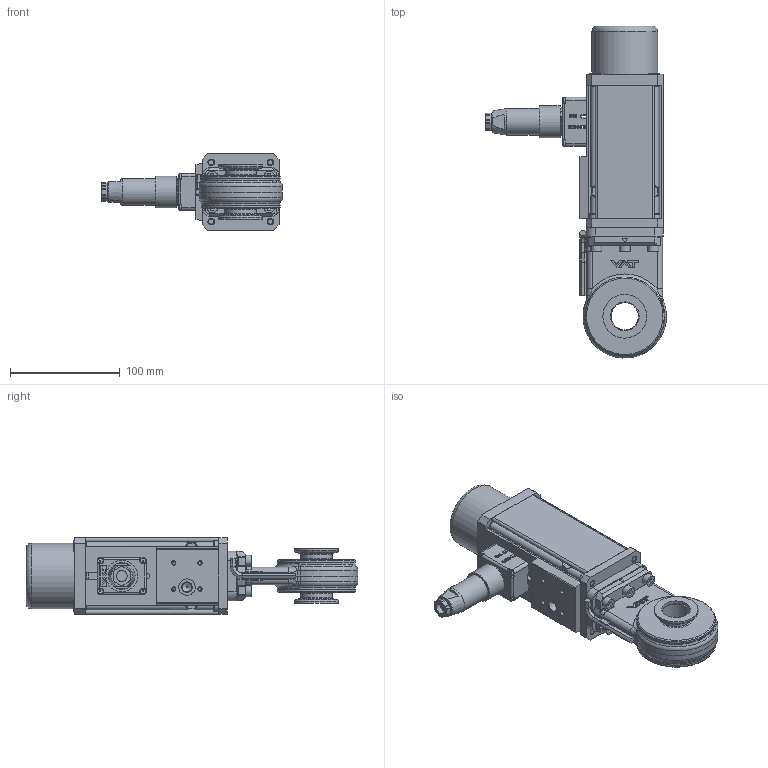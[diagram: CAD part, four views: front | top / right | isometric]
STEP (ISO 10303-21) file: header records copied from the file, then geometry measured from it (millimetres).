
FILE_DESCRIPTION(/* description */ (''),/* implementation_level */ '2;1');
FILE_NAME(/* name */ '1060373170_203',/* time_stamp */ '2009-09-17T12:36:42+02:00',/* author */ (''),/* organization */ (''),/* preprocessor_version */ 'ST-DEVELOPER v11',/* originating_system */ 'UGS - NX 5.0',/* authorisation */ '');
FILE_SCHEMA (('CONFIG_CONTROL_DESIGN'));
Length unit declared in the file: millimetre
Products named in the file (23): 63150-01; 69852-01; 63172-01; 87466-01.1; 69672-01; n-8504-002; N-6016-078.1; 69968-01.1; 70687-01.2; 72771-01.1; 70709-01.1; 228772.1; 73280-01_1.1; 63152-01.4; 224809.1; 68156-01.1; 70708-01.1; 70701-01.1; 65209-01.2; 318865; 63170-r1; 66268-r1.5; 334268
Assembly tree (42 placements, depth 5):
  334268
    65209-01.2
    70701-01.1
    70708-01.1
    68156-01.1  x4
    224809.1  x4
    63152-01.4
    73280-01_1.1
    228772.1  x6
    70709-01.1
    72771-01.1  x4
    70687-01.2
    69968-01.1
    N-6016-078.1  x4
    n-8504-002
    69672-01
    66268-r1.5
      63172-01
      69852-01
      63170-r1
        318865
          63150-01  x2
      87466-01.1
    87466-01.1  x2
Bounding box: 165.01 x 303.02 x 70 mm (x, y, z)
Volume: 640909.4 mm3; surface area: 288515.9 mm2
Topology: 66 solids, 66 shells, 1391 faces, 3295 edges, 2176 vertices
Faces by surface type: plane 786, cylinder 379, cone 87, bspline 66, torus 51, extrusion 22
Full cylindrical faces by diameter (mm): 1.5 x1, 1.95 x4, 2.25 x4, 2.46 x4, 2.5 x8, 3 x8, 3.3 x4, 3.4 x6, 4 x8, 4.4 x8, 4.96 x10, 5 x17, 5.95 x2, 6 x42, 6.2 x14, 6.475 x4, 6.95 x2, 7.982 x4, 8.2 x4, 8.6 x1, 9.728 x1, 9.85 x1, 9.989 x4, 10 x11, 10.012 x4, 11.35 x4, 13.3 x1, 13.85 x1, 14.9 x1, 15 x1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
Entity records: 38477 total; most frequent: CARTESIAN_POINT 10904, ORIENTED_EDGE 4880, DIRECTION 4781, EDGE_CURVE 2440, VERTEX_POINT 1763, AXIS2_PLACEMENT_3D 1736, EDGE_LOOP 1490, VECTOR 1309
